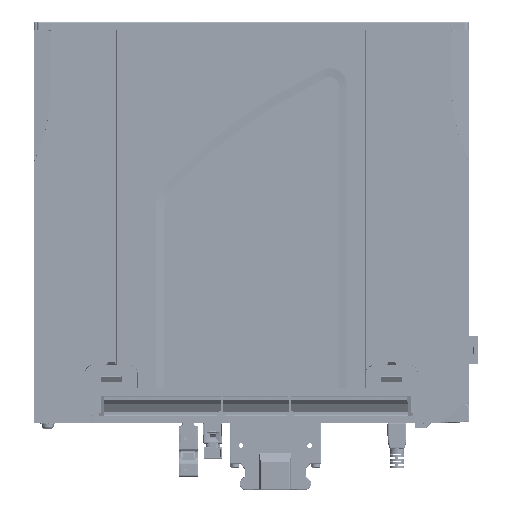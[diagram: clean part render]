
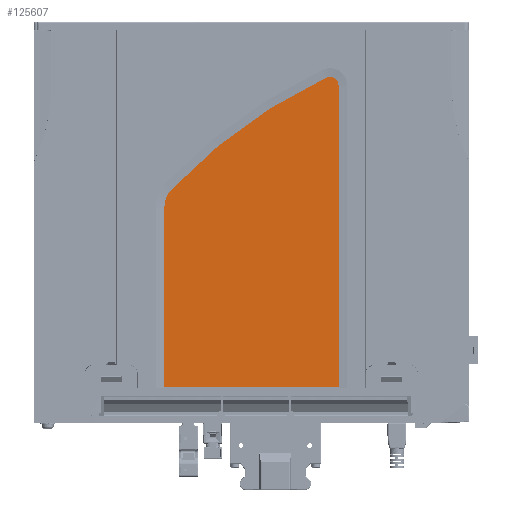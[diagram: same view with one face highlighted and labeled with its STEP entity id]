
A CAD part, front view. The second image highlights one B-rep face of the part: STEP entity #125607.
In plain terms, the highlighted planar face has unit normal (0, -1, 0).
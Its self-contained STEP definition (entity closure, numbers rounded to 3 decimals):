
#111335=DIRECTION('',(0.,0.,-1.));
#111336=VECTOR('',#111335,103.2);
#111337=CARTESIAN_POINT('',(75.662,0.5,
-106.572));
#111338=LINE('',#111337,#111336);
#111343=CARTESIAN_POINT('',(90.662,0.5,
-106.572));
#111344=DIRECTION('',(0.,1.,0.));
#111345=DIRECTION('',(-1.,0.,0.));
#111346=AXIS2_PLACEMENT_3D('',#111343,#111344,#111345);
#111348=CARTESIAN_POINT('',(294.048,0.5,
-299.014));
#111349=DIRECTION('',(0.,1.,0.));
#111350=DIRECTION('',(-0.726,0.,0.687));
#111351=AXIS2_PLACEMENT_3D('',#111348,#111349,#111350);
#111353=CARTESIAN_POINT('',(170.662,0.5,
-36.572));
#111354=DIRECTION('',(0.,1.,0.));
#111355=DIRECTION('',(-0.425,0.,0.905));
#111356=AXIS2_PLACEMENT_3D('',#111353,#111354,#111355);
#111358=CARTESIAN_POINT('',(170.662,0.5,
-36.572));
#111359=DIRECTION('',(0.,1.,0.));
#111360=DIRECTION('',(0.,0.,1.));
#111361=AXIS2_PLACEMENT_3D('',#111358,#111359,#111360);
#111363=DIRECTION('',(0.,0.,-1.));
#111364=VECTOR('',#111363,173.2);
#111365=CARTESIAN_POINT('',(175.662,0.5,
-36.572));
#111366=LINE('',#111365,#111364);
#111367=DIRECTION('',(-1.,0.,0.));
#111368=VECTOR('',#111367,100.);
#111369=CARTESIAN_POINT('',(175.662,0.5,
-209.772));
#111370=LINE('',#111369,#111368);
#113621=CARTESIAN_POINT('',(75.662,0.5,
-209.772));
#113622=VERTEX_POINT('',#113621);
#113623=CARTESIAN_POINT('',(175.662,0.5,
-209.772));
#113624=VERTEX_POINT('',#113623);
#115176=CARTESIAN_POINT('',(175.662,0.5,
-36.572));
#115177=VERTEX_POINT('',#115176);
#115178=CARTESIAN_POINT('',(75.662,0.5,
-106.572));
#115179=VERTEX_POINT('',#115178);
#115180=CARTESIAN_POINT('',(79.766,0.5,
-96.263));
#115181=VERTEX_POINT('',#115180);
#115182=CARTESIAN_POINT('',(168.534,0.5,
-32.047));
#115183=VERTEX_POINT('',#115182);
#115184=CARTESIAN_POINT('',(170.662,0.5,
-31.572));
#115185=VERTEX_POINT('',#115184);
#125588=CARTESIAN_POINT('',(125.662,0.5,
-107.322));
#125589=DIRECTION('',(0.,-1.,0.));
#125590=DIRECTION('',(0.,0.,-1.));
#125591=AXIS2_PLACEMENT_3D('',#125588,#125589,#125590);
#125592=PLANE('',#125591);
#125593=ORIENTED_EDGE('',*,*,#125579,.F.);
#125595=ORIENTED_EDGE('',*,*,#125594,.T.);
#125597=ORIENTED_EDGE('',*,*,#125596,.T.);
#125599=ORIENTED_EDGE('',*,*,#125598,.T.);
#125601=ORIENTED_EDGE('',*,*,#125600,.T.);
#125603=ORIENTED_EDGE('',*,*,#125602,.T.);
#125604=ORIENTED_EDGE('',*,*,#117532,.T.);
#125605=EDGE_LOOP('',(#125593,#125595,#125597,#125599,#125601,#125603,#125604));
#125606=FACE_OUTER_BOUND('',#125605,.F.);
#125607=ADVANCED_FACE('',(#125606),#125592,.T.);
#111347=CIRCLE('',#111346,15.);
#111352=CIRCLE('',#111351,295.);
#111357=CIRCLE('',#111356,5.);
#111362=CIRCLE('',#111361,5.);
#117532=EDGE_CURVE('',#113624,#113622,#111370,.T.);
#125579=EDGE_CURVE('',#115179,#113622,#111338,.T.);
#125594=EDGE_CURVE('',#115179,#115181,#111347,.T.);
#125596=EDGE_CURVE('',#115181,#115183,#111352,.T.);
#125598=EDGE_CURVE('',#115183,#115185,#111357,.T.);
#125600=EDGE_CURVE('',#115185,#115177,#111362,.T.);
#125602=EDGE_CURVE('',#115177,#113624,#111366,.T.);
